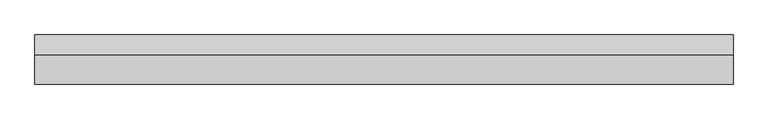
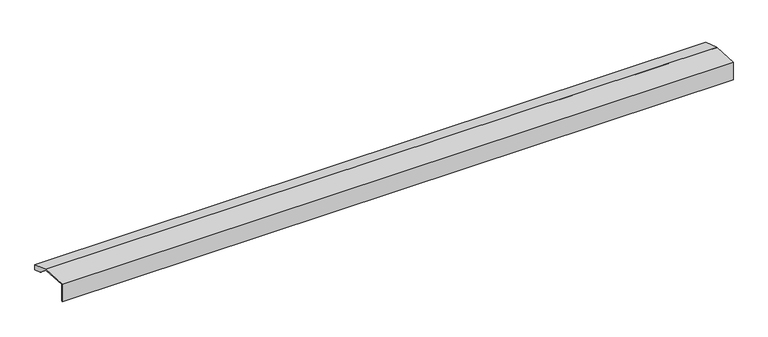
"""IFC4 building model written with IfcOpenShell, lengths in millimetres: proxy geometry, Roof_Vent-Metal_Era-Hi_Perf_Ridge_Vent_Sloped_Roof_Meets_Vertical_Wall : Roof_Vent-Metal_Era-Hi_Perf_Ridge_Vent_Sloped_Roof_Meets_Vertical_Wall."""

from ifc_helpers import new_model, si_unit, frame, origin, place, context, project, spatial, polyline, outline, extrude, source, transform, mapped, element, save


def specialty_equipment_01184899(model_context):
    return source(origin(), model_context, "Body", "SweptSolid", [
        extrude(outline(polyline([(214.5871375, 48.0893421), (214.5871375, 22.3629243), (172.8254077, 36.2794931), (130.3696485, 72.9920189), (4.2433875, 80.5196917), (4.2433875, 4.4449775), (0.0, 0.0), (0.0, 84.2804439), (128.9741656, 76.6187834), (214.5871375, 48.0893421)])), frame((0.0, 0.0, 0.0), z_axis=(1.0, 0.0, 0.0), x_axis=(0.0, 1.0, 0.0)), (0.0, 0.0, 1.0), 3048.0),
    ])


if __name__ == "__main__":
    model = new_model("IFC4")
    model_context = context("Model", 3, world=origin())
    ifc_project = project(units=[si_unit("LENGTHUNIT", "METRE", prefix="MILLI")], contexts=[model_context])
    site = spatial("IfcSite", under=ifc_project)
    building = spatial("IfcBuilding", under=site)
    placement = place(None, origin())
    specialty_equipment_shape = specialty_equipment_01184899(model_context)
    element("IfcBuildingElementProxy", 1, Name="Roof_Vent-Metal_Era-Hi_Perf_Ridge_Vent_Sloped_Roof_Meets_Vertical_Wall : Roof_Vent-Metal_Era-Hi_Perf_Ridge_Vent_Sloped_Roof_Meets_Vertical_Wall", ObjectType="Roof_Vent-Metal_Era-Hi_Perf_Ridge_Vent_Sloped_Roof_Meets_Vertical_Wall : Roof_Vent-Metal_Era-Hi_Perf_Ridge_Vent_Sloped_Roof_Meets_Vertical_Wall", at=placement, inside=building, context=model_context, shape_type="MappedRepresentation", body=[
        mapped(specialty_equipment_shape, transform((0.0, 0.0, 0.0), x_axis=(1.0, 0.0, 0.0), y_axis=(0.0, 1.0, 0.0), z_axis=(0.0, 0.0, 1.0))),
    ])
    save(model, "model.ifc")
